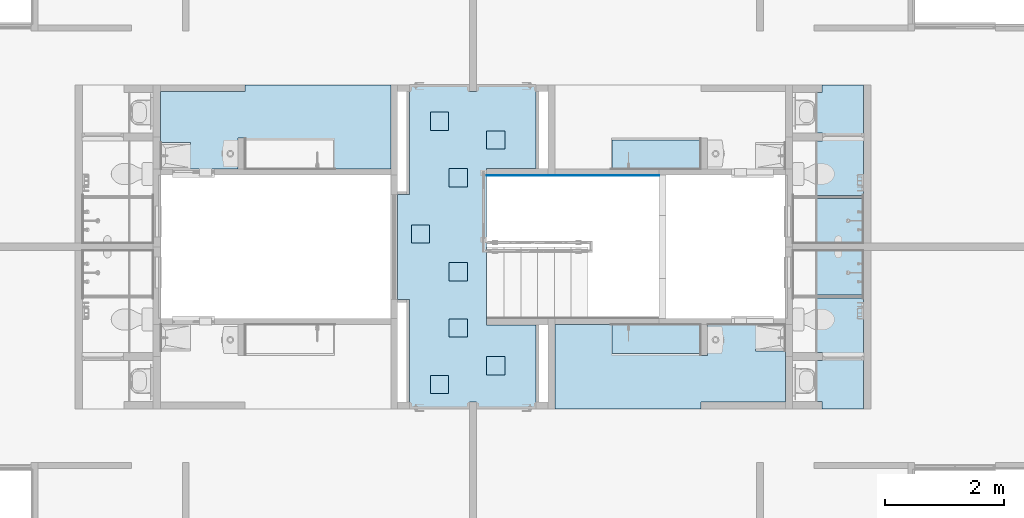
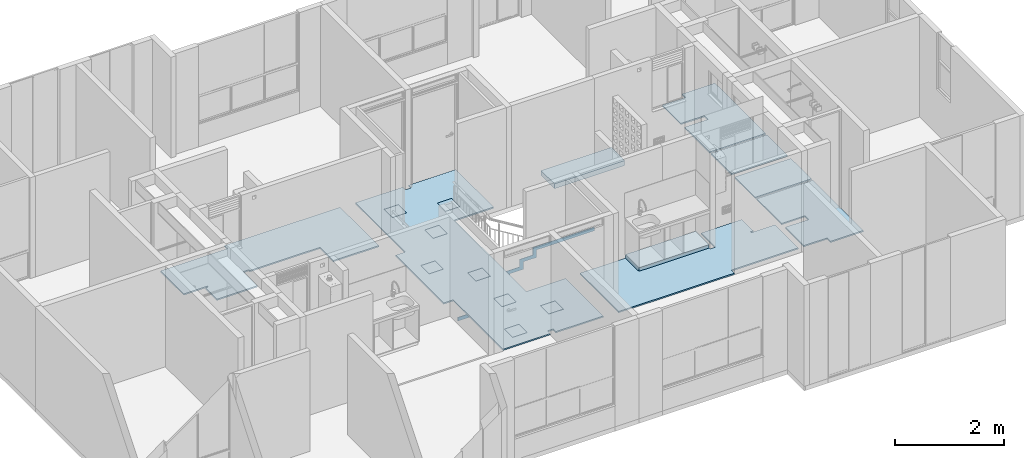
# One storey, part 2 of 47: 9 slabs.
"""IFC4 building model written with IfcOpenShell, lengths in metres."""

from ifc_helpers import new_model, entity, si_unit, converted_unit, derived_unit, direction, frame, origin, place, context, subcontext, project, spatial, indexed_curve, outline, extrude, material, constituent, constituent_set, type_object, element, save


model = new_model("IFC4")

# Units and contexts
model_context = context("Model", 3, precision=1e-05, world=origin(), true_north=direction((6.123031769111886e-17, 1.0)))
body_context = subcontext(model_context, "Body", "Model", "MODEL_VIEW")
ifc_project = project(units=[si_unit("LENGTHUNIT", "METRE"), si_unit("AREAUNIT", "SQUARE_METRE"), si_unit("VOLUMEUNIT", "CUBIC_METRE"), converted_unit("PLANEANGLEUNIT", "DEGREE", entity("IfcRatioMeasure", 0.017453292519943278), si_unit("PLANEANGLEUNIT", "RADIAN"), dimensions=[0, 0, 0, 0, 0, 0, 0]), si_unit("MASSUNIT", "GRAM", prefix="KILO"), derived_unit("MASSDENSITYUNIT", [(si_unit("MASSUNIT", "GRAM", prefix="KILO"), 1), (si_unit("LENGTHUNIT", "METRE"), -3)]), derived_unit("IONCONCENTRATIONUNIT", [(si_unit("MASSUNIT", "GRAM", prefix="KILO"), 1), (si_unit("LENGTHUNIT", "METRE"), -3)]), derived_unit("MOMENTOFINERTIAUNIT", [(si_unit("LENGTHUNIT", "METRE"), 4)]), si_unit("TIMEUNIT", "SECOND"), si_unit("FREQUENCYUNIT", "HERTZ"), si_unit("THERMODYNAMICTEMPERATUREUNIT", "DEGREE_CELSIUS"), derived_unit("THERMALTRANSMITTANCEUNIT", [(si_unit("MASSUNIT", "GRAM", prefix="KILO"), 1), (si_unit("THERMODYNAMICTEMPERATUREUNIT", "KELVIN"), -1), (si_unit("TIMEUNIT", "SECOND"), -3)]), derived_unit("THERMALCONDUCTANCEUNIT", [(si_unit("MASSUNIT", "GRAM", prefix="KILO"), 1), (si_unit("THERMODYNAMICTEMPERATUREUNIT", "KELVIN"), -1), (si_unit("TIMEUNIT", "SECOND"), -3), (si_unit("LENGTHUNIT", "METRE"), 1)]), derived_unit("VOLUMETRICFLOWRATEUNIT", [(si_unit("LENGTHUNIT", "METRE"), 3), (si_unit("TIMEUNIT", "SECOND"), -1)]), derived_unit("MASSFLOWRATEUNIT", [(si_unit("MASSUNIT", "GRAM", prefix="KILO"), 1), (si_unit("TIMEUNIT", "SECOND"), -1)]), derived_unit("ROTATIONALFREQUENCYUNIT", [(si_unit("TIMEUNIT", "SECOND"), -1)]), si_unit("ELECTRICCURRENTUNIT", "AMPERE"), si_unit("ELECTRICVOLTAGEUNIT", "VOLT"), si_unit("POWERUNIT", "WATT"), si_unit("FORCEUNIT", "NEWTON", prefix="KILO"), si_unit("ILLUMINANCEUNIT", "LUX"), si_unit("LUMINOUSFLUXUNIT", "LUMEN"), si_unit("LUMINOUSINTENSITYUNIT", "CANDELA"), derived_unit("USERDEFINED", [(si_unit("MASSUNIT", "GRAM", prefix="KILO"), -1), (si_unit("LENGTHUNIT", "METRE"), -2), (si_unit("TIMEUNIT", "SECOND"), 3), (si_unit("LUMINOUSFLUXUNIT", "LUMEN"), 1)]), derived_unit("USERDEFINED", [(si_unit("MASSUNIT", "GRAM", prefix="KILO"), 1), (si_unit("TIMEUNIT", "SECOND"), -3), (si_unit("LENGTHUNIT", "METRE"), 3), (si_unit("ELECTRICCURRENTUNIT", "AMPERE"), -2)]), derived_unit("SOUNDPOWERUNIT", [(si_unit("MASSUNIT", "GRAM", prefix="KILO"), 1), (si_unit("TIMEUNIT", "SECOND"), -3), (si_unit("LENGTHUNIT", "METRE"), 2)]), derived_unit("SOUNDPRESSUREUNIT", [(si_unit("MASSUNIT", "GRAM", prefix="KILO"), 1), (si_unit("LENGTHUNIT", "METRE"), -1), (si_unit("TIMEUNIT", "SECOND"), -2)]), derived_unit("LINEARVELOCITYUNIT", [(si_unit("LENGTHUNIT", "METRE"), 1), (si_unit("TIMEUNIT", "SECOND"), -1)]), si_unit("PRESSUREUNIT", "PASCAL"), derived_unit("USERDEFINED", [(si_unit("MASSUNIT", "GRAM", prefix="KILO"), 1), (si_unit("LENGTHUNIT", "METRE"), -2), (si_unit("TIMEUNIT", "SECOND"), -2)]), derived_unit("LINEARFORCEUNIT", [(si_unit("MASSUNIT", "GRAM", prefix="KILO"), 1), (si_unit("TIMEUNIT", "SECOND"), -2)]), derived_unit("PLANARFORCEUNIT", [(si_unit("MASSUNIT", "GRAM", prefix="KILO"), 1), (si_unit("LENGTHUNIT", "METRE"), -1), (si_unit("TIMEUNIT", "SECOND"), -2)]), derived_unit("SPECIFICHEATCAPACITYUNIT", [(si_unit("THERMODYNAMICTEMPERATUREUNIT", "KELVIN"), -1), (si_unit("LENGTHUNIT", "METRE"), 2), (si_unit("TIMEUNIT", "SECOND"), -2)]), derived_unit("HEATINGVALUEUNIT", [(si_unit("LENGTHUNIT", "METRE"), 2), (si_unit("TIMEUNIT", "SECOND"), -2)]), derived_unit("VAPORPERMEABILITYUNIT", [(si_unit("LENGTHUNIT", "METRE"), -1), (si_unit("TIMEUNIT", "SECOND"), 1)]), derived_unit("DYNAMICVISCOSITYUNIT", [(si_unit("MASSUNIT", "GRAM", prefix="KILO"), 1), (si_unit("TIMEUNIT", "SECOND"), -1), (si_unit("LENGTHUNIT", "METRE"), -1)]), derived_unit("THERMALEXPANSIONCOEFFICIENTUNIT", [(si_unit("THERMODYNAMICTEMPERATUREUNIT", "KELVIN"), -1)]), derived_unit("MODULUSOFELASTICITYUNIT", [(si_unit("MASSUNIT", "GRAM", prefix="KILO"), 1), (si_unit("LENGTHUNIT", "METRE"), -1), (si_unit("TIMEUNIT", "SECOND"), -2)]), derived_unit("ISOTHERMALMOISTURECAPACITYUNIT", [(si_unit("LENGTHUNIT", "METRE"), 3), (si_unit("MASSUNIT", "GRAM", prefix="KILO"), -1)]), derived_unit("MOISTUREDIFFUSIVITYUNIT", [(si_unit("TIMEUNIT", "SECOND"), -1), (si_unit("LENGTHUNIT", "METRE"), 2)])], contexts=[model_context])

# Site, building, storey
site_placement = place(None, origin())
site = spatial("IfcSite", under=ifc_project, at=site_placement, Name="Default", CompositionType="ELEMENT")
building_placement = place(site_placement, origin())
building = spatial("IfcBuilding", under=site, at=building_placement, CompositionType="ELEMENT")
storey_placement = place(building_placement, frame((0.0, 0.0, 11.750000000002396)))
storey = spatial("IfcBuildingStorey", under=building, at=storey_placement, Name="Nivel 6", CompositionType="ELEMENT", Elevation=11.750000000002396)

# Slabs
ifc_material_1 = material(Name="Ceramica 0.45m x 0.45m gris", Category="Materials")
ifc_constituent_1 = constituent(ifc_material_1, Name="Ceramica 0.45m x 0.45m gris", Category="Materials")
ifc_material_2 = material(Name="Mortero de pega", Category="Materials")
ifc_constituent_2 = constituent(ifc_material_2, Name="Mortero de pega", Category="Materials")
ifc_constituent_set_1 = constituent_set(constituents=[ifc_constituent_1, ifc_constituent_2], Name="Floor:C2030.20 - 0.45 x 0.45 - Enchape cerámico - Mortero de Pega + Cerámica gris")
slab_type_1 = type_object("IfcSlabType", Name="Floor:C2030.20 - 0.45 x 0.45 - Enchape cerámico - Mortero de Pega + Cerámica gris", PredefinedType="FLOOR", material=ifc_constituent_set_1)
slab_1_placement = place(storey_placement, origin())
element("IfcSlab", 1, at=slab_1_placement, inside=storey, type_object=slab_type_1, material=ifc_constituent_set_1, Name="Floor:C2030.20 - 0.45 x 0.45 - Enchape cerámico - Mortero de Pega + Cerámica gris", ObjectType="Floor:C2030.20 - 0.45 x 0.45 - Enchape cerámico - Mortero de Pega + Cerámica gris", PredefinedType="FLOOR", context=body_context, shape_type="SweptSolid", body=[
    extrude(outline(indexed_curve([(0.06375012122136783, -0.725999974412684), (1.478750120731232, -0.725999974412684), (1.4787501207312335, 0.12399999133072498), (0.9787496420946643, 0.12399999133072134), (0.9787496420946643, 0.15799999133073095), (1.0387496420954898, 0.15799999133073), (1.03874964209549, 0.5734999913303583), (0.17875012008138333, 0.5734999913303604), (0.1787501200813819, 0.053999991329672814), (0.06375012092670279, 0.05399999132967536), (0.06375012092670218, 0.08399999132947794), (-1.4212498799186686, 0.08399999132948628), (-1.4212498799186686, 0.5734999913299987), (-2.3812498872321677, 0.5734999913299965), (-2.38124988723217, -0.8409999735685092), (0.06375012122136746, -0.8409999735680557), (0.06375012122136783, -0.725999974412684)], self_intersect=False)), frame((5.566250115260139, -4.5510000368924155, 0.019999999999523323), z_axis=(0.0, 0.0, 1.0), x_axis=(-1.0, 0.0, 0.0)), (0.0, 0.0, 1.0), 0.009999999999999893),
    extrude(outline(indexed_curve([(-0.8409999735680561, 0.06375012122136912), (-0.840999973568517, -2.381249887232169), (0.5734999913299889, -2.3812498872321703), (0.5734999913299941, -1.4212498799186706), (0.08399999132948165, -1.4212498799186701), (0.08399999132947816, 0.0637501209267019), (0.05399999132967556, 0.06375012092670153), (0.0539999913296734, 0.17875012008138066), (0.5734999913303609, 0.1787501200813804), (0.5734999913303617, 1.0387496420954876), (0.1579999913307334, 1.0387496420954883), (0.15799999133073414, 0.9787496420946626), (0.12399999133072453, 0.9787496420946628), (0.1239999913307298, 1.4787501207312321), (-0.7259999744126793, 1.4787501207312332), (-0.7259999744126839, 0.06375012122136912), (-0.8409999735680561, 0.06375012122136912)], self_intersect=False)), frame((5.5662501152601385, -4.5510000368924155, 0.0), z_axis=(0.0, 0.0, -1.0), x_axis=(0.0, -1.0, 0.0)), (0.0, 0.0, -1.0), 0.019999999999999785),
])
slab_2_placement = place(storey_placement, origin())
element("IfcSlab", 2, at=slab_2_placement, inside=storey, type_object=slab_type_1, material=ifc_constituent_set_1, Name="Floor:C2030.20 - 0.45 x 0.45 - Enchape cerámico - Mortero de Pega + Cerámica gris", ObjectType="Floor:C2030.20 - 0.45 x 0.45 - Enchape cerámico - Mortero de Pega + Cerámica gris", PredefinedType="FLOOR", context=body_context, shape_type="SweptSolid", body=[
    extrude(outline(indexed_curve([(-0.5924994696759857, -0.3749999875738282), (0.5924994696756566, -0.3749999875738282), (0.5924994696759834, 0.3749999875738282), (-0.5924994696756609, 0.3749999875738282), (-0.5924994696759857, -0.3749999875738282)], self_intersect=False)), frame((15.274999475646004, -5.9900000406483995, 0.019999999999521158)), (0.0, 0.0, 1.0), 0.009999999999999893),
    extrude(outline(indexed_curve([(0.19500000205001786, -0.43399957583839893), (1.1099999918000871, -0.43399957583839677), (1.1099999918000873, 0.750999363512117), (-0.7449999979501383, 0.7509993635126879), (-0.7449999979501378, 0.05600042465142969), (-0.6199999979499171, 0.056000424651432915), (-0.6199999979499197, -0.43399957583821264), (0.06000000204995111, -0.43399957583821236), (0.06000000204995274, 0.06099936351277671), (0.19500000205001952, 0.060999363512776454), (0.19500000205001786, -0.43399957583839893)], self_intersect=False)), frame((15.116499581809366, -4.455000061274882, 0.019999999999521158), z_axis=(0.0, 0.0, 1.0), x_axis=(0.0, -1.0, 0.0)), (0.0, 0.0, 1.0), 0.009999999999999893),
    extrude(outline(indexed_curve([(-1.1099999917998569, -0.7509993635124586), (0.7449999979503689, -0.7509993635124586), (0.7449999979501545, -0.056000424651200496), (0.6199999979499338, -0.05600042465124), (0.6199999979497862, 0.43399957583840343), (-0.06000000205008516, 0.43399957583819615), (-0.06000000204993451, -0.06099936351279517), (-0.1950000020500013, -0.06099936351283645), (-0.19500000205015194, 0.4339995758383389), (-1.109999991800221, 0.43399957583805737), (-1.1099999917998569, -0.7509993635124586)], self_intersect=False)), frame((15.116499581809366, -4.455000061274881, 0.0), z_axis=(0.0, 0.0, 1.0), x_axis=(0.0, 1.0, 0.0)), (0.0, 0.0, 1.0), 0.019999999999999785),
    extrude(outline(indexed_curve([(-0.5924994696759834, -0.3749999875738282), (0.5924994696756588, -0.3749999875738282), (0.5924994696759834, 0.3749999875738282), (-0.5924994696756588, 0.3749999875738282), (-0.5924994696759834, -0.3749999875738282)], self_intersect=False)), frame((15.274999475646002, -5.9900000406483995, 0.0)), (0.0, 0.0, 1.0), 0.019999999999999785),
])
slab_3_placement = place(storey_placement, origin())
element("IfcSlab", 3, at=slab_3_placement, inside=storey, type_object=slab_type_1, material=ifc_constituent_set_1, Name="Floor:C2030.20 - 0.45 x 0.45 - Enchape cerámico - Mortero de Pega + Cerámica gris", ObjectType="Floor:C2030.20 - 0.45 x 0.45 - Enchape cerámico - Mortero de Pega + Cerámica gris", PredefinedType="FLOOR", context=body_context, shape_type="SweptSolid", body=[
    extrude(outline(indexed_curve([(-0.5924994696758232, -0.3749999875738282), (0.5924994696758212, -0.3749999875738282), (0.5924994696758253, 0.3749999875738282), (-0.5924994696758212, 0.3749999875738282), (-0.5924994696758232, -0.3749999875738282)], self_intersect=False)), frame((15.274999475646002, -6.860000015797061, 0.019999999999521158)), (0.0, 0.0, 1.0), 0.009999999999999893),
    extrude(outline(indexed_curve([(-0.1950000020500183, -0.06099936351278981), (-0.19500000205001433, 0.4339995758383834), (-1.1099999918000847, 0.4339995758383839), (-1.1099999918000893, -0.75099936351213), (0.7449999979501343, -0.7509993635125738), (0.7449999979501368, -0.056000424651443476), (0.6199999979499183, -0.0560004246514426), (0.6199999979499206, 0.4339995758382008), (-0.06000000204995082, 0.4339995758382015), (-0.060000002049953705, -0.06099936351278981), (-0.1950000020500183, -0.06099936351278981)], self_intersect=False)), frame((15.116499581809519, -8.394999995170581, 0.019999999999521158), z_axis=(0.0, 0.0, -1.0), x_axis=(0.0, -1.0, 0.0)), (0.0, 0.0, -1.0), 0.009999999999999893),
    extrude(outline(indexed_curve([(-0.7509993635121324, -1.1099999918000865), (0.43399957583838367, -1.1099999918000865), (0.4339995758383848, -0.1950000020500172), (-0.06099936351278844, -0.19500000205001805), (-0.060999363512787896, -0.06000000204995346), (0.43399957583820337, -0.06000000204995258), (0.43399957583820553, 0.6199999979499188), (-0.05600042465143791, 0.6199999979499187), (-0.056000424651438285, 0.744999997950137), (-0.7509993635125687, 0.7449999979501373), (-0.7509993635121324, -1.1099999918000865)], self_intersect=False)), frame((15.11649958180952, -8.394999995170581, 0.0), z_axis=(0.0, 0.0, 1.0), x_axis=(-1.0, 0.0, 0.0)), (0.0, 0.0, 1.0), 0.019999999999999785),
    extrude(outline(indexed_curve([(-0.3749999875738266, -0.5924994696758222), (0.3749999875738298, -0.5924994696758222), (0.3749999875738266, 0.5924994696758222), (-0.3749999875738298, 0.5924994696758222), (-0.3749999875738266, -0.5924994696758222)], self_intersect=False)), frame((15.274999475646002, -6.860000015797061, 0.0), z_axis=(0.0, 0.0, 1.0), x_axis=(0.0, -1.0, 0.0)), (0.0, 0.0, 1.0), 0.019999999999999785),
])
slab_4_placement = place(storey_placement, origin())
element("IfcSlab", 4, at=slab_4_placement, inside=storey, type_object=slab_type_1, material=ifc_constituent_set_1, Name="Floor:C2030.20 - 0.45 x 0.45 - Enchape cerámico - Mortero de Pega + Cerámica gris", ObjectType="Floor:C2030.20 - 0.45 x 0.45 - Enchape cerámico - Mortero de Pega + Cerámica gris", PredefinedType="FLOOR", context=body_context, shape_type="SweptSolid", body=[
    extrude(outline(indexed_curve([(0.06375012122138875, -0.725999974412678), (1.478750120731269, -0.725999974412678), (1.478750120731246, 0.12399999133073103), (0.9787496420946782, 0.12399999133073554), (0.9787496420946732, 0.15799999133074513), (1.0387496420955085, 0.15799999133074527), (1.0387496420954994, 0.5734999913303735), (0.1787501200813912, 0.5734999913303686), (0.17875012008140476, 0.053999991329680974), (0.06375012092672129, 0.0539999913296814), (0.06375012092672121, 0.083999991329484), (-1.4212498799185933, 0.08399999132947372), (-1.4212498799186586, 0.5734999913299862), (-2.3812498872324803, 0.5734999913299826), (-2.3812498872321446, -0.8409999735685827), (0.0637501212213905, -0.8409999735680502), (0.06375012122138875, -0.725999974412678)], self_intersect=False)), frame((13.078749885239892, -8.299000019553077, 0.019999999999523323)), (0.0, 0.0, 1.0), 0.009999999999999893),
    extrude(outline(indexed_curve([(-0.8409999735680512, 0.06375012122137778), (-0.8409999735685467, -2.381249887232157), (0.5734999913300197, -2.3812498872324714), (0.5734999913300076, -1.42124987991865), (0.08399999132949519, -1.421249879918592), (0.08399999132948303, 0.06375012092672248), (0.05399999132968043, 0.06375012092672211), (0.05399999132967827, 0.17875012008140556), (0.5734999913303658, 0.17875012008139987), (0.5734999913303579, 1.038749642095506), (0.1579999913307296, 1.038749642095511), (0.15799999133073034, 0.9787496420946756), (0.12399999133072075, 0.9787496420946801), (0.12399999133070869, 1.478750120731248), (-0.7259999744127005, 1.478750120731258), (-0.725999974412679, 0.06375012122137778), (-0.8409999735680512, 0.06375012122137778)], self_intersect=False)), frame((13.078749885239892, -8.299000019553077, 0.0), z_axis=(0.0, 0.0, -1.0), x_axis=(0.0, 1.0, 0.0)), (0.0, 0.0, -1.0), 0.019999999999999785),
])
ifc_material_3 = material(Name="PISO GRES SAHARA 30X30", Category="Materials")
ifc_constituent_3 = constituent(ifc_material_3, Name="PISO GRES SAHARA 30X30", Category="Materials")
ifc_constituent_4 = constituent(ifc_material_2, Name="Mortero de pega", Category="Materials")
ifc_constituent_set_2 = constituent_set(constituents=[ifc_constituent_3, ifc_constituent_4], Name="Floor:C2030.20 - 30x30- Piso en gres - Gres")
slab_type_2 = type_object("IfcSlabType", Name="Floor:C2030.20 - 30x30- Piso en gres - Gres", PredefinedType="FLOOR", material=ifc_constituent_set_2)
slab_5_placement = place(storey_placement, origin())
element("IfcSlab", 5, at=slab_5_placement, inside=storey, type_object=slab_type_2, material=ifc_constituent_set_2, Name="Floor:C2030.20 - 30x30- Piso en gres - Gres", ObjectType="Floor:C2030.20 - 30x30- Piso en gres - Gres", PredefinedType="FLOOR", context=body_context, shape_type="SweptSolid", body=[
    extrude(outline(indexed_curve([(0.9570000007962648, -0.8799999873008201), (1.15699999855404, -0.879999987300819), (1.156999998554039, 0.8800000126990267), (0.9570000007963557, 0.8800000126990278), (0.9570000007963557, 2.6969999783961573), (-0.04299999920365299, 2.6969999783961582), (-0.04299999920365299, 2.5999999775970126), (-0.16299999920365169, 2.5999999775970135), (-0.16299999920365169, 2.6969999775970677), (-1.16299999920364, 2.6969999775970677), (-1.16299999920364, 1.3150000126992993), (-0.33300000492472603, 1.3150000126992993), (-0.33300000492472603, -1.3149999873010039), (-1.1629999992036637, -1.3149999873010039), (-1.1629999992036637, -2.697000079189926), (-0.16299999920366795, -2.697000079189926), (-0.16299999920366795, -2.599999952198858), (-0.04299999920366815, -2.599999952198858), (-0.04299999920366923, -2.6969999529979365), (0.9570000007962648, -2.6969999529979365), (0.9570000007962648, -0.8799999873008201)], self_intersect=False), holes=[indexed_curve([(0.30699999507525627, 2.1550000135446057), (0.30699999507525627, 2.4600000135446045), (0.6119999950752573, 2.4600000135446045), (0.6119999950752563, 2.1550000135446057), (0.30699999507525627, 2.1550000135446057)], self_intersect=False), indexed_curve([(-0.3330000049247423, 2.14500001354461), (-0.33300000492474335, 1.840000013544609), (-0.6380000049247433, 1.840000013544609), (-0.6380000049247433, 2.14500001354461), (-0.3330000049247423, 2.14500001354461)], self_intersect=False), indexed_curve([(0.29699999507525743, 1.515000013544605), (0.2969999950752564, 1.2100000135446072), (-0.008000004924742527, 1.2100000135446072), (-0.00800000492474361, 1.515000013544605), (0.29699999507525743, 1.515000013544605)], self_intersect=False), indexed_curve([(0.6219999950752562, -0.36499998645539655), (0.6219999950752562, -0.059999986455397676), (0.9269999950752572, -0.059999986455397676), (0.9269999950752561, -0.36499998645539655), (0.6219999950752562, -0.36499998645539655)], self_intersect=False), indexed_curve([(-0.00800000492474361, 0.2650000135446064), (-0.00800000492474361, 0.5700000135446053), (0.29699999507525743, 0.5700000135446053), (0.2969999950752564, 0.2650000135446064), (-0.00800000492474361, 0.2650000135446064)], self_intersect=False), indexed_curve([(-0.00800000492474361, -1.309999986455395), (-0.00800000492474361, -1.004999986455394), (0.29699999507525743, -1.004999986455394), (0.2969999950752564, -1.309999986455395), (-0.00800000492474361, -1.309999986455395)], self_intersect=False), indexed_curve([(-0.3330000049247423, -1.63499998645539), (-0.33300000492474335, -1.9399999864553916), (-0.6380000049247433, -1.9399999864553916), (-0.6380000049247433, -1.63499998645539), (-0.3330000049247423, -1.63499998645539)], self_intersect=False), indexed_curve([(0.30699999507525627, -2.2549999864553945), (0.30699999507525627, -1.9499999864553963), (0.6119999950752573, -1.9499999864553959), (0.6119999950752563, -2.2549999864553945), (0.30699999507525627, -2.2549999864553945)], self_intersect=False)]), frame((9.21950000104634, -6.425000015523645, 0.019999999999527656), z_axis=(0.0, 0.0, 1.0), x_axis=(-1.0, 0.0, 0.0)), (0.0, 0.0, 1.0), 0.009999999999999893),
    extrude(outline(indexed_curve([(0.9570000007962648, -0.8799999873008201), (1.15699999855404, -0.8799999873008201), (1.15699999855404, 0.8800000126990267), (0.9570000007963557, 0.8800000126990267), (0.9570000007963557, 2.6969999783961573), (-0.04299999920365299, 2.6969999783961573), (-0.04299999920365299, 2.5999999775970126), (-0.16299999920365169, 2.5999999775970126), (-0.16299999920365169, 2.6969999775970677), (-1.16299999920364, 2.6969999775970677), (-1.16299999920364, 1.3150000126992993), (-0.33300000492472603, 1.3150000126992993), (-0.33300000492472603, -1.3149999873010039), (-1.1629999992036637, -1.3149999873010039), (-1.1629999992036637, -2.697000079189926), (-0.16299999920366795, -2.697000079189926), (-0.16299999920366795, -2.599999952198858), (-0.04299999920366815, -2.599999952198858), (-0.04299999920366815, -2.6969999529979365), (0.9570000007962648, -2.6969999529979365), (0.9570000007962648, -0.8799999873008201)], self_intersect=False), holes=[indexed_curve([(0.3069999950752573, -2.2549999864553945), (0.3069999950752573, -1.9499999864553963), (0.6119999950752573, -1.9499999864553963), (0.6119999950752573, -2.2549999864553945), (0.3069999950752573, -2.2549999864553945)], self_intersect=False), indexed_curve([(-0.3330000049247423, -1.63499998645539), (-0.3330000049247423, -1.9399999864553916), (-0.6380000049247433, -1.9399999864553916), (-0.6380000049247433, -1.63499998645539), (-0.3330000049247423, -1.63499998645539)], self_intersect=False), indexed_curve([(-0.008000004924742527, -1.309999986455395), (-0.008000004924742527, -1.004999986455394), (0.29699999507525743, -1.004999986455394), (0.29699999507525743, -1.309999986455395), (-0.008000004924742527, -1.309999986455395)], self_intersect=False), indexed_curve([(-0.008000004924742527, 0.2650000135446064), (-0.008000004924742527, 0.5700000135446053), (0.29699999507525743, 0.5700000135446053), (0.29699999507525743, 0.2650000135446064), (-0.008000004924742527, 0.2650000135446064)], self_intersect=False), indexed_curve([(0.6219999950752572, -0.36499998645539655), (0.6219999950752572, -0.059999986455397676), (0.9269999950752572, -0.059999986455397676), (0.9269999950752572, -0.36499998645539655), (0.6219999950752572, -0.36499998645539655)], self_intersect=False), indexed_curve([(0.29699999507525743, 1.515000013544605), (0.29699999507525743, 1.2100000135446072), (-0.008000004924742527, 1.2100000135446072), (-0.008000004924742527, 1.515000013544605), (0.29699999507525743, 1.515000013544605)], self_intersect=False), indexed_curve([(-0.3330000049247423, 2.14500001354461), (-0.3330000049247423, 1.840000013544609), (-0.6380000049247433, 1.840000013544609), (-0.6380000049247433, 2.14500001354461), (-0.3330000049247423, 2.14500001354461)], self_intersect=False), indexed_curve([(0.3069999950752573, 2.1550000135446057), (0.3069999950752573, 2.4600000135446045), (0.6119999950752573, 2.4600000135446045), (0.6119999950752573, 2.1550000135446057), (0.3069999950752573, 2.1550000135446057)], self_intersect=False)]), frame((9.21950000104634, -6.425000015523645, 0.0), z_axis=(0.0, 0.0, 1.0), x_axis=(-1.0, 0.0, 0.0)), (0.0, 0.0, 1.0), 0.019999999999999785),
])
ifc_material_4 = material(Name="Concreto (Aire)", Category="Materials")
slab_type_3 = type_object("IfcSlabType", Name="Floor:B1010 - 0.10m - Poyo - Concreto", PredefinedType="FLOOR", material=ifc_material_4)
slab_6_placement = place(storey_placement, origin())
element("IfcSlab", 6, at=slab_6_placement, inside=storey, type_object=slab_type_3, material=ifc_material_4, Name="Floor:B1010 - 0.10m - Poyo - Concreto", ObjectType="Floor:B1010 - 0.10m - Poyo - Concreto", PredefinedType="FLOOR", context=body_context, shape_type="SweptSolid", body=[
    extrude(outline(indexed_curve([(-0.24475000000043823, -0.7425000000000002), (0.2447500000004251, -0.7425000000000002), (0.24475000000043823, 0.7425000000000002), (-0.2447500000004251, 0.7425000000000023), (-0.24475000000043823, -0.7425000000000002)], self_intersect=False)), frame((12.400000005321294, -4.87975002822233, 0.10999999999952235), z_axis=(0.0, 0.0, -1.0), x_axis=(0.0, 1.0, 0.0)), (0.0, 0.0, 1.0), 0.11000000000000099),
])
slab_7_placement = place(storey_placement, origin())
element("IfcSlab", 7, at=slab_7_placement, inside=storey, type_object=slab_type_3, material=ifc_material_4, Name="Floor:B1010 - 0.10m - Poyo - Concreto", ObjectType="Floor:B1010 - 0.10m - Poyo - Concreto", PredefinedType="FLOOR", context=body_context, shape_type="SweptSolid", body=[
    extrude(outline(indexed_curve([(-0.2447500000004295, -0.7425000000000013), (0.2447500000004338, -0.7425000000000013), (0.24475000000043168, 0.7425000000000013), (-0.2447500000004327, 0.742499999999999), (-0.2447500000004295, -0.7425000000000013)], self_intersect=False)), frame((12.400000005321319, -7.9702500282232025, 0.10999999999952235), z_axis=(0.0, 0.0, -1.0), x_axis=(0.0, 1.0, 0.0)), (0.0, 0.0, 1.0), 0.11000000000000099),
])
ifc_material_5 = material(Name="PISO GRES moca 30X30", Category="Materials")
ifc_constituent_5 = constituent(ifc_material_5, Name="PISO GRES moca 30X30", Category="Materials")
ifc_constituent_6 = constituent(ifc_material_2, Name="Mortero de pega", Category="Materials")
ifc_constituent_set_3 = constituent_set(constituents=[ifc_constituent_5, ifc_constituent_6], Name="Floor:C2030.20 - Piso en gres - Gres moca")
slab_type_4 = type_object("IfcSlabType", Name="Floor:C2030.20 - Piso en gres - Gres moca", PredefinedType="FLOOR", material=ifc_constituent_set_3)
slab_8_placement = place(storey_placement, origin())
element("IfcSlab", 8, at=slab_8_placement, inside=storey, type_object=slab_type_4, material=ifc_constituent_set_3, Name="Floor:C2030.20 - Piso en gres - Gres moca", ObjectType="Floor:C2030.20 - Piso en gres - Gres moca", PredefinedType="FLOOR", context=body_context, shape_type="SweptSolid", body=[
    extrude(outline(indexed_curve([(-0.15249999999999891, -0.15250000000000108), (0.15249999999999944, -0.1525), (0.1525, 0.15249999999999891), (-0.15249999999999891, 0.1525), (-0.15249999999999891, -0.15250000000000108)], self_intersect=False)), frame((8.760000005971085, -4.32250002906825, 0.019999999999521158), z_axis=(0.0, 0.0, 1.0), x_axis=(0.0, -1.0, 0.0)), (0.0, 0.0, 1.0), 0.009999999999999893),
    extrude(outline(indexed_curve([(-0.15250000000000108, -0.15250000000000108), (0.1525, -0.15250000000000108), (0.1525, 0.15250000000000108), (-0.15250000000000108, 0.15250000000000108), (-0.15250000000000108, -0.15250000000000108)], self_intersect=False)), frame((9.705000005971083, -4.637500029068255, 0.019999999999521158)), (0.0, 0.0, 1.0), 0.009999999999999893),
    extrude(outline(indexed_curve([(-0.15249999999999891, -0.15250000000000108), (0.15250000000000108, -0.15250000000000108), (0.1525, 0.1525), (-0.15249999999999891, 0.1525), (-0.15249999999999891, -0.15250000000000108)], self_intersect=False)), frame((9.075000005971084, -5.267500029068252, 0.019999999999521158), z_axis=(0.0, 0.0, 1.0), x_axis=(-1.0, 0.0, 0.0)), (0.0, 0.0, 1.0), 0.009999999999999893),
    extrude(outline(indexed_curve([(-0.1525, -0.15250000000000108), (0.15249999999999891, -0.1525), (0.15249999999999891, 0.15249999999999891), (-0.1525, 0.1525), (-0.1525, -0.15250000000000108)], self_intersect=False)), frame((8.445000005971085, -6.212500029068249, 0.019999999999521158), z_axis=(0.0, 0.0, 1.0), x_axis=(0.0, -1.0, 0.0)), (0.0, 0.0, 1.0), 0.009999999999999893),
    extrude(outline(indexed_curve([(-0.1525, -0.1525), (0.15249999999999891, -0.1525), (0.15249999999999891, 0.15250000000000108), (-0.1525, 0.1525), (-0.1525, -0.1525)], self_intersect=False)), frame((9.075000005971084, -6.842500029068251, 0.019999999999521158), z_axis=(0.0, 0.0, 1.0), x_axis=(0.0, 1.0, 0.0)), (0.0, 0.0, 1.0), 0.009999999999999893),
    extrude(outline(indexed_curve([(-0.1525, -0.1525), (0.15249999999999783, -0.1525), (0.15249999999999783, 0.15250000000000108), (-0.1525, 0.1525), (-0.1525, -0.1525)], self_intersect=False)), frame((9.075000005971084, -7.787500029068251, 0.019999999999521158), z_axis=(0.0, 0.0, 1.0), x_axis=(0.0, 1.0, 0.0)), (0.0, 0.0, 1.0), 0.009999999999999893),
    extrude(outline(indexed_curve([(-0.1525, -0.15250000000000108), (0.15250000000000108, -0.15250000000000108), (0.1525, 0.1525), (-0.1525, 0.15250000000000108), (-0.1525, -0.15250000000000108)], self_intersect=False)), frame((9.705000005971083, -8.417500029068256, 0.019999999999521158), z_axis=(0.0, 0.0, 1.0), x_axis=(-1.0, 0.0, 0.0)), (0.0, 0.0, 1.0), 0.009999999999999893),
    extrude(outline(indexed_curve([(-0.15249999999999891, -0.15250000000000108), (0.1525, -0.1525), (0.1525, 0.15249999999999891), (-0.15249999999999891, 0.1525), (-0.15249999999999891, -0.15250000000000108)], self_intersect=False)), frame((8.760000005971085, -8.73250002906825, 0.019999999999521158), z_axis=(0.0, 0.0, 1.0), x_axis=(0.0, -1.0, 0.0)), (0.0, 0.0, 1.0), 0.009999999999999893),
    extrude(outline(indexed_curve([(-0.15249999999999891, -0.1525), (0.15249999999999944, -0.1525), (0.15249999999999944, 0.1525), (-0.15249999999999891, 0.1525), (-0.15249999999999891, -0.1525)], self_intersect=False)), frame((8.760000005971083, -4.32250002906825, 0.0), z_axis=(0.0, 0.0, 1.0), x_axis=(0.0, -1.0, 0.0)), (0.0, 0.0, 1.0), 0.019999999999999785),
    extrude(outline(indexed_curve([(-0.15250000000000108, -0.15250000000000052), (0.1525, -0.15250000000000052), (0.1525, 0.15250000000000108), (-0.15250000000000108, 0.15250000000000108), (-0.15250000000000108, -0.15250000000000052)], self_intersect=False)), frame((9.705000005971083, -4.637500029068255, 0.0)), (0.0, 0.0, 1.0), 0.019999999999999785),
    extrude(outline(indexed_curve([(-0.1525, -0.15250000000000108), (0.1525, -0.15250000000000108), (0.1525, 0.1525), (-0.1525, 0.1525), (-0.1525, -0.15250000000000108)], self_intersect=False)), frame((9.075000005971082, -5.267500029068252, 0.0), z_axis=(0.0, 0.0, 1.0), x_axis=(-1.0, 0.0, 0.0)), (0.0, 0.0, 1.0), 0.019999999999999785),
    extrude(outline(indexed_curve([(-0.1525, -0.1525), (0.15249999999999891, -0.1525), (0.15249999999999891, 0.1525), (-0.1525, 0.1525), (-0.1525, -0.1525)], self_intersect=False)), frame((8.445000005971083, -6.212500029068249, 0.0), z_axis=(0.0, 0.0, 1.0), x_axis=(0.0, -1.0, 0.0)), (0.0, 0.0, 1.0), 0.019999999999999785),
    extrude(outline(indexed_curve([(-0.1525, -0.1525), (0.15249999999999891, -0.1525), (0.15249999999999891, 0.1525), (-0.1525, 0.1525), (-0.1525, -0.1525)], self_intersect=False)), frame((9.075000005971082, -6.842500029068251, 0.0), z_axis=(0.0, 0.0, 1.0), x_axis=(0.0, 1.0, 0.0)), (0.0, 0.0, 1.0), 0.019999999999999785),
    extrude(outline(indexed_curve([(-0.1525, -0.1525), (0.15249999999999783, -0.1525), (0.15249999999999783, 0.1525), (-0.1525, 0.1525), (-0.1525, -0.1525)], self_intersect=False)), frame((9.075000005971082, -7.787500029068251, 0.0), z_axis=(0.0, 0.0, 1.0), x_axis=(0.0, 1.0, 0.0)), (0.0, 0.0, 1.0), 0.019999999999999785),
    extrude(outline(indexed_curve([(-0.15249999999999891, -0.1525), (0.1525, -0.1525), (0.1525, 0.1525), (-0.15249999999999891, 0.1525), (-0.15249999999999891, -0.1525)], self_intersect=False)), frame((8.760000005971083, -8.73250002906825, 0.0), z_axis=(0.0, 0.0, 1.0), x_axis=(0.0, -1.0, 0.0)), (0.0, 0.0, 1.0), 0.019999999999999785),
    extrude(outline(indexed_curve([(-0.1525, -0.15250000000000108), (0.15250000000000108, -0.15250000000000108), (0.15250000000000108, 0.1525), (-0.1525, 0.1525), (-0.1525, -0.15250000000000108)], self_intersect=False)), frame((9.705000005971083, -8.417500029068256, 0.0), z_axis=(0.0, 0.0, 1.0), x_axis=(-1.0, 0.0, 0.0)), (0.0, 0.0, 1.0), 0.019999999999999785),
])
ifc_material_6 = material(Name="PISO GRES SAHARA 30X30 guardaescoba sin hatch", Category="Materials")
slab_type_5 = type_object("IfcSlabType", Name="Floors 7:Floors 1", PredefinedType="FLOOR", material=ifc_material_6)
slab_9_placement = place(storey_placement, origin())
element("IfcSlab", 9, at=slab_9_placement, inside=storey, type_object=slab_type_5, Name="Floors 7:Floors 1", ObjectType="Floors 7:Floors 1", PredefinedType="FLOOR", context=body_context, shape_type="SweptSolid", body=[
    extrude(outline(indexed_curve([(-1.8907142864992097, -0.46357142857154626), (-1.8907142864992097, -0.5435714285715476), (-0.5857142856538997, -0.5435714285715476), (-0.5857142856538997, -0.3757142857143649), (-0.3057142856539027, -0.3757142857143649), (-0.30571428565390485, -0.20785714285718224), (-0.025714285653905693, -0.20785714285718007), (-0.025714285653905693, -0.03999999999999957), (0.2542857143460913, -0.03999999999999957), (0.2542857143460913, 0.1278571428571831), (0.5342857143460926, 0.1278571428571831), (0.5342857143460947, 0.2957142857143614), (0.8142857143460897, 0.2957142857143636), (0.8142857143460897, 0.46357142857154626), (0.9992857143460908, 0.46357142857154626), (0.9992857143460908, 0.5435714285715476), (0.7342857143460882, 0.5435714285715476), (0.7342857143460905, 0.3757142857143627), (0.45428571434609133, 0.3757142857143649), (0.45428571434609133, 0.2078571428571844), (0.17428571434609, 0.2078571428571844), (0.17428571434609, 0.040000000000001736), (-0.105714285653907, 0.040000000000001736), (-0.10571428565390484, -0.12785714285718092), (-0.385714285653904, -0.1278571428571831), (-0.385714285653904, -0.2957142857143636), (-0.665714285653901, -0.2957142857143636), (-0.665714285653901, -0.46357142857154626), (-1.8907142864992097, -0.46357142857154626)], self_intersect=False)), frame((10.551680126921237, -5.235000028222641, -1.608571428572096), z_axis=(0.0, -1.0, 0.0), x_axis=(-1.0, 0.0, 0.0)), (0.0, 0.0, -1.0), 0.009999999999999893),
])

save(model, "model.ifc")
